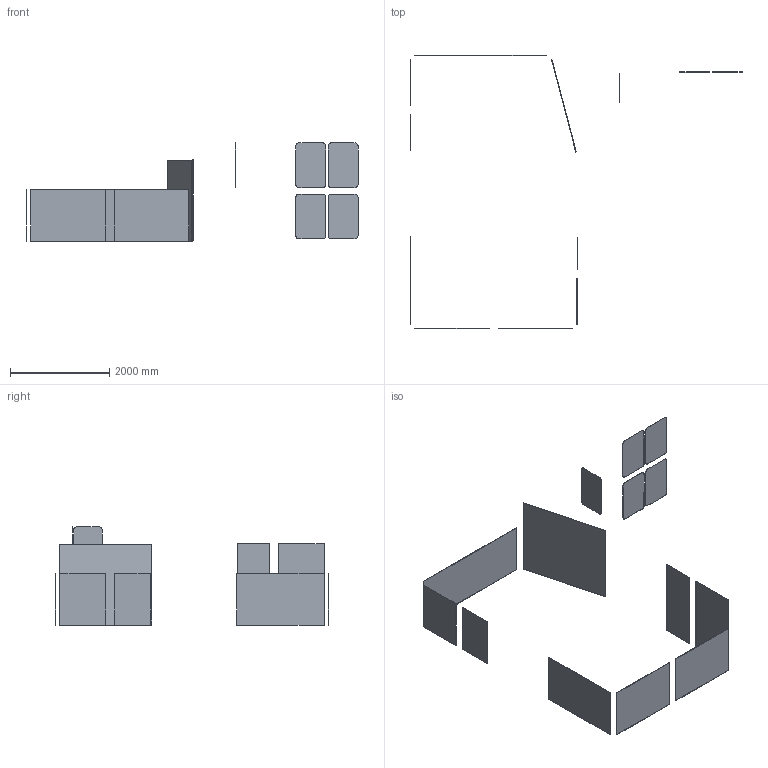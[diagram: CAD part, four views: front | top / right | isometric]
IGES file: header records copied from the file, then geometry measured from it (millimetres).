
Start section: START RECORD GO HERE.
Global section: file name: G:\CATIA V5\Machines Ncsimul\Machines TAURUS\TAURUS-3Axes-NCSIMUL\Bati-verre.igs; native system: IBM CATIA IGES - CATIA Version 5 Release 9 ; preprocessor: CATIA Version 5 Release 9 ; organization: DASSAULT SYSTEMES; date: 20030304.143055; units: millimetre
Bounding box: 6684 x 5510 x 1975 mm (x, y, z)
Surface area: 35832908.5 mm2 (no closed solid volume)
Topology: 0 solids, 0 shells, 104 faces, 456 edges, 456 vertices
Faces by surface type: plane 84, revolution 20
